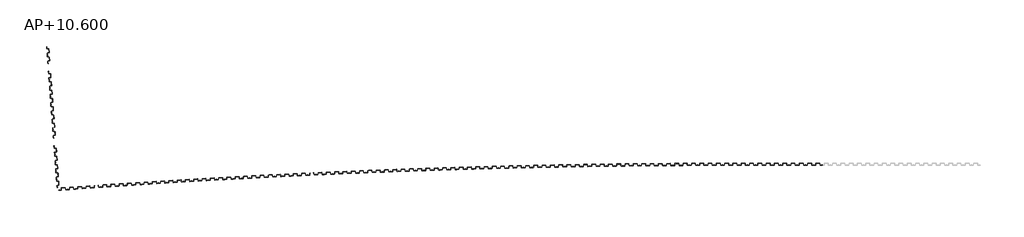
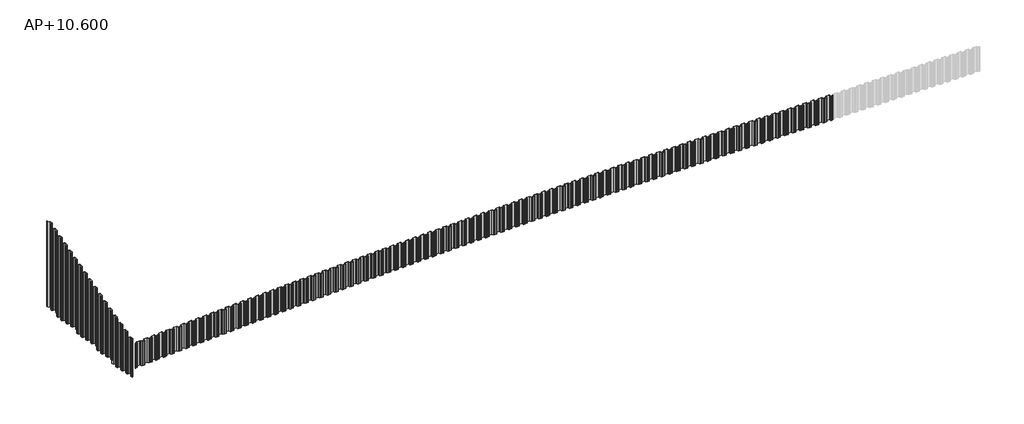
# One storey, part 1 of 2: 109 proxies.
"""IFC4 building model written with IfcOpenShell, lengths in millimetres."""

from ifc_helpers import new_model, si_unit, origin, place, context, project, spatial, transform, mapped, element, save
from components import generic_models_baafeade, generic_models_cdec1266, generic_models_6a52f8d3, generic_models_769bab11, generic_models_eddb28b0, generic_models_b851e550, generic_models_f981eec5, generic_models_fa2cd2e8, generic_models_5c6d3e61, generic_models_5d25678b, generic_models_d380ba2e, generic_models_831c492c, generic_models_77be9fe8, generic_models_16d24312

model = new_model("IFC4")

# Units and contexts
model_context = context("Model", 3, world=origin())
ifc_project = project(units=[si_unit("LENGTHUNIT", "METRE", prefix="MILLI")], contexts=[model_context])

# Site, building, storey
site = spatial("IfcSite", under=ifc_project)
building = spatial("IfcBuilding", under=site)
storey = spatial("IfcBuildingStorey", under=building, Name="AP+10.600", Elevation=10600.0)

# Proxies
placement = place(None, origin())
generic_models_shape = generic_models_baafeade(model_context)
element("IfcBuildingElementProxy", 1, Name="鋼矢板10H型 : 鋼矢板10H型", ObjectType="鋼矢板10H型 : 鋼矢板10H型", at=placement, inside=storey, context=model_context, shape_type="MappedRepresentation", body=[
    mapped(generic_models_shape, transform((-6168.0, -15450.0, 9950.0), x_axis=(1.0, 0.0, 0.0), y_axis=(0.0, 1.0, 0.0), z_axis=(0.0, 0.0, 1.0))),
])
element("IfcBuildingElementProxy", 2, Name="鋼矢板10H型 : 鋼矢板10H型", ObjectType="鋼矢板10H型 : 鋼矢板10H型", at=placement, inside=storey, context=model_context, shape_type="MappedRepresentation", body=[
    mapped(generic_models_shape, transform((-7068.0, -15450.0, 9950.0), x_axis=(1.0, 0.0, 0.0), y_axis=(0.0, 1.0, 0.0), z_axis=(0.0, 0.0, 1.0))),
])
element("IfcBuildingElementProxy", 3, Name="鋼矢板10H型 : 鋼矢板10H型", ObjectType="鋼矢板10H型 : 鋼矢板10H型", at=placement, inside=storey, context=model_context, shape_type="MappedRepresentation", body=[
    mapped(generic_models_shape, transform((-7968.0, -15450.0, 9950.0), x_axis=(1.0, 0.0, 0.0), y_axis=(0.0, 1.0, 0.0), z_axis=(0.0, 0.0, 1.0))),
])
element("IfcBuildingElementProxy", 4, Name="鋼矢板10H型 : 鋼矢板10H型", ObjectType="鋼矢板10H型 : 鋼矢板10H型", at=placement, inside=storey, context=model_context, shape_type="MappedRepresentation", body=[
    mapped(generic_models_shape, transform((-8868.0, -15450.0, 9950.0), x_axis=(1.0, 0.0, 0.0), y_axis=(0.0, 1.0, 0.0), z_axis=(0.0, 0.0, 1.0))),
])
element("IfcBuildingElementProxy", 5, Name="鋼矢板10H型 : 鋼矢板10H型", ObjectType="鋼矢板10H型 : 鋼矢板10H型", at=placement, inside=storey, context=model_context, shape_type="MappedRepresentation", body=[
    mapped(generic_models_shape, transform((-9768.0, -15450.0, 9950.0), x_axis=(1.0, 0.0, 0.0), y_axis=(0.0, 1.0, 0.0), z_axis=(0.0, 0.0, 1.0))),
])
element("IfcBuildingElementProxy", 6, Name="鋼矢板10H型 : 鋼矢板10H型", ObjectType="鋼矢板10H型 : 鋼矢板10H型", at=placement, inside=storey, context=model_context, shape_type="MappedRepresentation", body=[
    mapped(generic_models_shape, transform((-10668.0, -15450.0, 9950.0), x_axis=(1.0, 0.0, 0.0), y_axis=(0.0, 1.0, 0.0), z_axis=(0.0, 0.0, 1.0))),
])
element("IfcBuildingElementProxy", 7, Name="鋼矢板10H型 : 鋼矢板10H型", ObjectType="鋼矢板10H型 : 鋼矢板10H型", at=placement, inside=storey, context=model_context, shape_type="MappedRepresentation", body=[
    mapped(generic_models_shape, transform((-11568.0, -15450.0, 9950.0), x_axis=(1.0, 0.0, 0.0), y_axis=(0.0, 1.0, 0.0), z_axis=(0.0, 0.0, 1.0))),
])
element("IfcBuildingElementProxy", 8, Name="鋼矢板10H型 : 鋼矢板10H型", ObjectType="鋼矢板10H型 : 鋼矢板10H型", at=placement, inside=storey, context=model_context, shape_type="MappedRepresentation", body=[
    mapped(generic_models_shape, transform((-12468.0, -15450.0, 9950.0), x_axis=(1.0, 0.0, 0.0), y_axis=(0.0, 1.0, 0.0), z_axis=(0.0, 0.0, 1.0))),
])
element("IfcBuildingElementProxy", 9, Name="鋼矢板10H型 : 鋼矢板10H型", ObjectType="鋼矢板10H型 : 鋼矢板10H型", at=placement, inside=storey, context=model_context, shape_type="MappedRepresentation", body=[
    mapped(generic_models_shape, transform((-13368.0, -15450.0, 9950.0), x_axis=(1.0, 0.0, 0.0), y_axis=(0.0, 1.0, 0.0), z_axis=(0.0, 0.0, 1.0))),
])
element("IfcBuildingElementProxy", 10, Name="鋼矢板10H型 : 鋼矢板10H型", ObjectType="鋼矢板10H型 : 鋼矢板10H型", at=placement, inside=storey, context=model_context, shape_type="MappedRepresentation", body=[
    mapped(generic_models_shape, transform((-14268.0, -15450.0, 9950.0), x_axis=(1.0, 0.0, 0.0), y_axis=(0.0, 1.0, 0.0), z_axis=(0.0, 0.0, 1.0))),
])
element("IfcBuildingElementProxy", 11, Name="鋼矢板10H型 : 鋼矢板10H型", ObjectType="鋼矢板10H型 : 鋼矢板10H型", at=placement, inside=storey, context=model_context, shape_type="MappedRepresentation", body=[
    mapped(generic_models_shape, transform((-15168.0, -15450.0, 9950.0), x_axis=(1.0, 0.0, 0.0), y_axis=(0.0, 1.0, 0.0), z_axis=(0.0, 0.0, 1.0))),
])
element("IfcBuildingElementProxy", 12, Name="鋼矢板10H型 : 鋼矢板10H型", ObjectType="鋼矢板10H型 : 鋼矢板10H型", at=placement, inside=storey, context=model_context, shape_type="MappedRepresentation", body=[
    mapped(generic_models_shape, transform((-16068.0, -15450.0, 9950.0), x_axis=(1.0, 0.0, 0.0), y_axis=(0.0, 1.0, 0.0), z_axis=(0.0, 0.0, 1.0))),
])
element("IfcBuildingElementProxy", 13, Name="鋼矢板10H型 : 鋼矢板10H型", ObjectType="鋼矢板10H型 : 鋼矢板10H型", at=placement, inside=storey, context=model_context, shape_type="MappedRepresentation", body=[
    mapped(generic_models_shape, transform((-16962.9987153, -15450.4113564, 9950.0), x_axis=(1.0, 0.0, 0.0), y_axis=(0.0, 1.0, 0.0), z_axis=(0.0, 0.0, 1.0))),
])
element("IfcBuildingElementProxy", 14, Name="鋼矢板10H型 : 鋼矢板10H型", ObjectType="鋼矢板10H型 : 鋼矢板10H型", at=placement, inside=storey, context=model_context, shape_type="MappedRepresentation", body=[
    mapped(generic_models_shape, transform((-17862.996547, -15452.673809, 9950.0), x_axis=(0.999997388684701, 0.0022853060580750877, 0.0), y_axis=(-0.0022853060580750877, 0.999997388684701, 0.0), z_axis=(0.0, 0.0, 1.0))),
])
element("IfcBuildingElementProxy", 15, Name="鋼矢板10H型 : 鋼矢板10H型", ObjectType="鋼矢板10H型 : 鋼矢板10H型", at=placement, inside=storey, context=model_context, shape_type="MappedRepresentation", body=[
    mapped(generic_models_shape, transform((-18762.9923513, -15455.1419359, 9950.0), x_axis=(0.9999948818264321, 0.0031994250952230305, 0.0), y_axis=(-0.0031994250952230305, 0.9999948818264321, 0.0), z_axis=(0.0, 0.0, 1.0))),
])
element("IfcBuildingElementProxy", 16, Name="鋼矢板10H型 : 鋼矢板10H型", ObjectType="鋼矢板10H型 : 鋼矢板10H型", at=placement, inside=storey, context=model_context, shape_type="MappedRepresentation", body=[
    mapped(generic_models_shape, transform((-19662.9856706, -15458.432769, 9950.0), x_axis=(0.9999915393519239, 0.004113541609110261, 0.0), y_axis=(-0.004113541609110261, 0.9999915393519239, 0.0), z_axis=(0.0, 0.0, 1.0))),
])
element("IfcBuildingElementProxy", 17, Name="鋼矢板10H型 : 鋼矢板10H型", ObjectType="鋼矢板10H型 : 鋼矢板10H型", at=placement, inside=storey, context=model_context, shape_type="MappedRepresentation", body=[
    mapped(generic_models_shape, transform((-20562.9754584, -15462.5463038, 9950.0), x_axis=(0.9999873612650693, 0.005027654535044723, 0.0), y_axis=(-0.005027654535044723, 0.9999873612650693, 0.0), z_axis=(0.0, 0.0, 1.0))),
])
element("IfcBuildingElementProxy", 18, Name="鋼矢板10H型 : 鋼矢板10H型", ObjectType="鋼矢板10H型 : 鋼矢板10H型", at=placement, inside=storey, context=model_context, shape_type="MappedRepresentation", body=[
    mapped(generic_models_shape, transform((-21462.9612573, -15467.4825389, 9950.0), x_axis=(0.9999823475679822, 0.005941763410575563, 0.0), y_axis=(-0.005941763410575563, 0.9999823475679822, 0.0), z_axis=(0.0, 0.0, 1.0))),
])
element("IfcBuildingElementProxy", 19, Name="鋼矢板10H型 : 鋼矢板10H型", ObjectType="鋼矢板10H型 : 鋼矢板10H型", at=placement, inside=storey, context=model_context, shape_type="MappedRepresentation", body=[
    mapped(generic_models_shape, transform((-22362.9420204, -15473.2414679, 9950.0), x_axis=(0.9999764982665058, 0.006855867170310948, 0.0), y_axis=(-0.006855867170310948, 0.9999764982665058, 0.0), z_axis=(0.0, 0.0, 1.0))),
])
element("IfcBuildingElementProxy", 20, Name="鋼矢板10H型 : 鋼矢板10H型", ObjectType="鋼矢板10H型 : 鋼矢板10H型", at=placement, inside=storey, context=model_context, shape_type="MappedRepresentation", body=[
    mapped(generic_models_shape, transform((-23262.9172905, -15479.8230885, 9950.0), x_axis=(0.9999698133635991, 0.007769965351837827, 0.0), y_axis=(-0.007769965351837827, 0.9999698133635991, 0.0), z_axis=(0.0, 0.0, 1.0))),
])
element("IfcBuildingElementProxy", 21, Name="鋼矢板10H型 : 鋼矢板10H型", ObjectType="鋼矢板10H型 : 鋼矢板10H型", at=placement, inside=storey, context=model_context, shape_type="MappedRepresentation", body=[
    mapped(generic_models_shape, transform((-24162.8860208, -15487.2273925, 9950.0), x_axis=(0.9999622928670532, 0.008684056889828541, 0.0), y_axis=(-0.008684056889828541, 0.9999622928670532, 0.0), z_axis=(0.0, 0.0, 1.0))),
])
element("IfcBuildingElementProxy", 22, Name="鋼矢板10H型 : 鋼矢板10H型", ObjectType="鋼矢板10H型 : 鋼矢板10H型", at=placement, inside=storey, context=model_context, shape_type="MappedRepresentation", body=[
    mapped(generic_models_shape, transform((-25062.8477541, -15495.4543766, 9950.0), x_axis=(0.99995393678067, 0.009598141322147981, 0.0), y_axis=(-0.009598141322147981, 0.99995393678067, 0.0), z_axis=(0.0, 0.0, 1.0))),
])
element("IfcBuildingElementProxy", 23, Name="鋼矢板10H型 : 鋼矢板10H型", ObjectType="鋼矢板10H型 : 鋼矢板10H型", at=placement, inside=storey, context=model_context, shape_type="MappedRepresentation", body=[
    mapped(generic_models_shape, transform((-25962.8014435, -15504.5040308, 9950.0), x_axis=(0.9999447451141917, 0.010512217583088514, 0.0), y_axis=(-0.010512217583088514, 0.9999447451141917, 0.0), z_axis=(0.0, 0.0, 1.0))),
])
element("IfcBuildingElementProxy", 24, Name="鋼矢板10H型 : 鋼矢板10H型", ObjectType="鋼矢板10H型 : 鋼矢板10H型", at=placement, inside=storey, context=model_context, shape_type="MappedRepresentation", body=[
    mapped(generic_models_shape, transform((-26862.7466317, -15514.3763509, 9950.0), x_axis=(0.999934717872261, 0.011426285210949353, 0.0), y_axis=(-0.011426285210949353, 0.999934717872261, 0.0), z_axis=(0.0, 0.0, 1.0))),
])
element("IfcBuildingElementProxy", 25, Name="鋼矢板10H型 : 鋼矢板10H型", ObjectType="鋼矢板10H型 : 鋼矢板10H型", at=placement, inside=storey, context=model_context, shape_type="MappedRepresentation", body=[
    mapped(generic_models_shape, transform((-27762.6822721, -15525.071325, 9950.0), x_axis=(0.9999238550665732, 0.012340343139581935, 0.0), y_axis=(-0.012340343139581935, 0.9999238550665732, 0.0), z_axis=(0.0, 0.0, 1.0))),
])
element("IfcBuildingElementProxy", 26, Name="鋼矢板10H型 : 鋼矢板10H型", ObjectType="鋼矢板10H型 : 鋼矢板10H型", at=placement, inside=storey, context=model_context, shape_type="MappedRepresentation", body=[
    mapped(generic_models_shape, transform((-28662.6079072, -15536.5889482, 9950.0), x_axis=(0.9999121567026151, 0.01325439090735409, 0.0), y_axis=(-0.01325439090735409, 0.9999121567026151, 0.0), z_axis=(0.0, 0.0, 1.0))),
])
element("IfcBuildingElementProxy", 27, Name="鋼矢板10H型 : 鋼矢板10H型", ObjectType="鋼矢板10H型 : 鋼矢板10H型", at=placement, inside=storey, context=model_context, shape_type="MappedRepresentation", body=[
    mapped(generic_models_shape, transform((-29562.5224906, -15548.9292064, 9950.0), x_axis=(0.9998996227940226, 0.014168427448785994, 0.0), y_axis=(-0.014168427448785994, 0.9998996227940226, 0.0), z_axis=(0.0, 0.0, 1.0))),
])
element("IfcBuildingElementProxy", 28, Name="鋼矢板10H型 : 鋼矢板10H型", ObjectType="鋼矢板10H型 : 鋼矢板10H型", at=placement, inside=storey, context=model_context, shape_type="MappedRepresentation", body=[
    mapped(generic_models_shape, transform((-30462.4255648, -15562.0920942, 9950.0), x_axis=(0.9998862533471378, 0.015082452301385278, 0.0), y_axis=(-0.015082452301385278, 0.9998862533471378, 0.0), z_axis=(0.0, 0.0, 1.0))),
])
element("IfcBuildingElementProxy", 29, Name="鋼矢板10H型 : 鋼矢板10H型", ObjectType="鋼矢板10H型 : 鋼矢板10H型", at=placement, inside=storey, context=model_context, shape_type="MappedRepresentation", body=[
    mapped(generic_models_shape, transform((-31362.3160831, -15576.0775954, 9950.0), x_axis=(0.999872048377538, 0.015996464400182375, 0.0), y_axis=(-0.015996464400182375, 0.999872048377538, 0.0), z_axis=(0.0, 0.0, 1.0))),
])
element("IfcBuildingElementProxy", 30, Name="鋼矢板10H型 : 鋼矢板10H型", ObjectType="鋼矢板10H型 : 鋼矢板10H型", at=placement, inside=storey, context=model_context, shape_type="MappedRepresentation", body=[
    mapped(generic_models_shape, transform((-32262.1935884, -15590.8857036, 9950.0), x_axis=(0.9998570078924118, 0.016910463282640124, 0.0), y_axis=(-0.016910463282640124, 0.9998570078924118, 0.0), z_axis=(0.0, 0.0, 1.0))),
])
element("IfcBuildingElementProxy", 31, Name="鋼矢板10H型 : 鋼矢板10H型", ObjectType="鋼矢板10H型 : 鋼矢板10H型", at=placement, inside=storey, context=model_context, shape_type="MappedRepresentation", body=[
    mapped(generic_models_shape, transform((-33162.0570339, -15606.516401, 9950.0), x_axis=(0.9998411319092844, 0.017824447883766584, 0.0), y_axis=(-0.017824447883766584, 0.9998411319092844, 0.0), z_axis=(0.0, 0.0, 1.0))),
])
element("IfcBuildingElementProxy", 32, Name="鋼矢板10H型 : 鋼矢板10H型", ObjectType="鋼矢板10H型 : 鋼矢板10H型", at=placement, inside=storey, context=model_context, shape_type="MappedRepresentation", body=[
    mapped(generic_models_shape, transform((-34061.9059624, -15622.9696803, 9950.0), x_axis=(0.9998244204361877, 0.018738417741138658, 0.0), y_axis=(-0.018738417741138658, 0.9998244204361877, 0.0), z_axis=(0.0, 0.0, 1.0))),
])
element("IfcBuildingElementProxy", 33, Name="鋼矢板10H型 : 鋼矢板10H型", ObjectType="鋼矢板10H型 : 鋼矢板10H型", at=placement, inside=storey, context=model_context, shape_type="MappedRepresentation", body=[
    mapped(generic_models_shape, transform((-34961.7393273, -15640.2455216, 9950.0), x_axis=(0.9998068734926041, 0.019652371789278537, 0.0), y_axis=(-0.019652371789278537, 0.9998068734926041, 0.0), z_axis=(0.0, 0.0, 1.0))),
])
element("IfcBuildingElementProxy", 34, Name="鋼矢板10H型 : 鋼矢板10H型", ObjectType="鋼矢板10H型 : 鋼矢板10H型", at=placement, inside=storey, context=model_context, shape_type="MappedRepresentation", body=[
    mapped(generic_models_shape, transform((-35861.5566713, -15658.3439169, 9950.0), x_axis=(0.9997884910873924, 0.02056630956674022, 0.0), y_axis=(-0.02056630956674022, 0.9997884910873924, 0.0), z_axis=(0.0, 0.0, 1.0))),
])
element("IfcBuildingElementProxy", 35, Name="鋼矢板10H型 : 鋼矢板10H型", ObjectType="鋼矢板10H型 : 鋼矢板10H型", at=placement, inside=storey, context=model_context, shape_type="MappedRepresentation", body=[
    mapped(generic_models_shape, transform((-36761.356948, -15677.2648445, 9950.0), x_axis=(0.999769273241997, 0.02148023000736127, 0.0), y_axis=(-0.02148023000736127, 0.999769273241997, 0.0), z_axis=(0.0, 0.0, 1.0))),
])
element("IfcBuildingElementProxy", 36, Name="鋼矢板10H型 : 鋼矢板10H型", ObjectType="鋼矢板10H型 : 鋼矢板10H型", at=placement, inside=storey, context=model_context, shape_type="MappedRepresentation", body=[
    mapped(generic_models_shape, transform((-37661.1396999, -15697.0082953, 9950.0), x_axis=(0.9997492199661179, 0.022394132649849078, 0.0), y_axis=(-0.022394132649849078, 0.9997492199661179, 0.0), z_axis=(0.0, 0.0, 1.0))),
])
element("IfcBuildingElementProxy", 37, Name="鋼矢板10H型 : 鋼矢板10H型", ObjectType="鋼矢板10H型 : 鋼矢板10H型", at=placement, inside=storey, context=model_context, shape_type="MappedRepresentation", body=[
    mapped(generic_models_shape, transform((-38560.9038806, -15717.5742459, 9950.0), x_axis=(0.9997283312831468, 0.023308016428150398, 0.0), y_axis=(-0.023308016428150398, 0.9997283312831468, 0.0), z_axis=(0.0, 0.0, 1.0))),
])
element("IfcBuildingElementProxy", 38, Name="鋼矢板10H型 : 鋼矢板10H型", ObjectType="鋼矢板10H型 : 鋼矢板10H型", at=placement, inside=storey, context=model_context, shape_type="MappedRepresentation", body=[
    mapped(generic_models_shape, transform((-39460.649033, -15738.9626863, 9950.0), x_axis=(0.9997066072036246, 0.02422188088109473, 0.0), y_axis=(-0.02422188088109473, 0.9997066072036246, 0.0), z_axis=(0.0, 0.0, 1.0))),
])
element("IfcBuildingElementProxy", 39, Name="鋼矢板10H型 : 鋼矢板10H型", ObjectType="鋼矢板10H型 : 鋼矢板10H型", at=placement, inside=storey, context=model_context, shape_type="MappedRepresentation", body=[
    mapped(generic_models_shape, transform((-40360.3741104, -15761.173591, 9950.0), x_axis=(0.9996840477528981, 0.025135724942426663, 0.0), y_axis=(-0.025135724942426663, 0.9996840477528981, 0.0), z_axis=(0.0, 0.0, 1.0))),
])
element("IfcBuildingElementProxy", 40, Name="鋼矢板10H型 : 鋼矢板10H型", ObjectType="鋼矢板10H型 : 鋼矢板10H型", at=placement, inside=storey, context=model_context, shape_type="MappedRepresentation", body=[
    mapped(generic_models_shape, transform((-41260.0786558, -15784.2069495, 9950.0), x_axis=(0.9996606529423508, 0.02604954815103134, 0.0), y_axis=(-0.02604954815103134, 0.9996606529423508, 0.0), z_axis=(0.0, 0.0, 1.0))),
])
element("IfcBuildingElementProxy", 41, Name="鋼矢板10H型 : 鋼矢板10H型", ObjectType="鋼矢板10H型 : 鋼矢板10H型", at=placement, inside=storey, context=model_context, shape_type="MappedRepresentation", body=[
    mapped(generic_models_shape, transform((-42159.7616226, -15808.0627342, 9950.0), x_axis=(0.9996364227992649, 0.026963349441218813, 0.0), y_axis=(-0.026963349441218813, 0.9996364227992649, 0.0), z_axis=(0.0, 0.0, 1.0))),
])
element("IfcBuildingElementProxy", 42, Name="鋼矢板10H型 : 鋼矢板10H型", ObjectType="鋼矢板10H型 : 鋼矢板10H型", at=placement, inside=storey, context=model_context, shape_type="MappedRepresentation", body=[
    mapped(generic_models_shape, transform((-43059.4225537, -15832.7409338, 9950.0), x_axis=(0.9996113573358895, 0.02787712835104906, 0.0), y_axis=(-0.02787712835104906, 0.9996113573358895, 0.0), z_axis=(0.0, 0.0, 1.0))),
])
element("IfcBuildingElementProxy", 43, Name="鋼矢板10H型 : 鋼矢板10H型", ObjectType="鋼矢板10H型 : 鋼矢板10H型", at=placement, inside=storey, context=model_context, shape_type="MappedRepresentation", body=[
    mapped(generic_models_shape, transform((-43959.0604028, -15858.2415187, 9950.0), x_axis=(0.9995854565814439, 0.02879088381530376, 0.0), y_axis=(-0.02879088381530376, 0.9995854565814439, 0.0), z_axis=(0.0, 0.0, 1.0))),
])
element("IfcBuildingElementProxy", 44, Name="鋼矢板10H型 : 鋼矢板10H型", ObjectType="鋼矢板10H型 : 鋼矢板10H型", at=placement, inside=storey, context=model_context, shape_type="MappedRepresentation", body=[
    mapped(generic_models_shape, transform((-44858.6747126, -15884.5644769, 9950.0), x_axis=(0.9995587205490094, 0.02970461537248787, 0.0), y_axis=(-0.02970461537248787, 0.9995587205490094, 0.0), z_axis=(0.0, 0.0, 1.0))),
])
element("IfcBuildingElementProxy", 45, Name="鋼矢板10H型 : 鋼矢板10H型", ObjectType="鋼矢板10H型 : 鋼矢板10H型", at=placement, inside=storey, context=model_context, shape_type="MappedRepresentation", body=[
    mapped(generic_models_shape, transform((-45758.2644369, -15911.7097769, 9950.0), x_axis=(0.999531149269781, 0.030618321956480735, 0.0), y_axis=(-0.030618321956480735, 0.999531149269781, 0.0), z_axis=(0.0, 0.0, 1.0))),
])
element("IfcBuildingElementProxy", 46, Name="鋼矢板10H型 : 鋼矢板10H型", ObjectType="鋼矢板10H型 : 鋼矢板10H型", at=placement, inside=storey, context=model_context, shape_type="MappedRepresentation", body=[
    mapped(generic_models_shape, transform((-46657.8291184, -15939.6774056, 9950.0), x_axis=(0.999502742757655, 0.0315320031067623, 0.0), y_axis=(-0.0315320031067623, 0.999502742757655, 0.0), z_axis=(0.0, 0.0, 1.0))),
])
element("IfcBuildingElementProxy", 47, Name="鋼矢板10H型 : 鋼矢板10H型", ObjectType="鋼矢板10H型 : 鋼矢板10H型", at=placement, inside=storey, context=model_context, shape_type="MappedRepresentation", body=[
    mapped(generic_models_shape, transform((-47557.367711, -15968.4673299, 9950.0), x_axis=(0.9994735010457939, 0.0324456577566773, 0.0), y_axis=(-0.0324456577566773, 0.9994735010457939, 0.0), z_axis=(0.0, 0.0, 1.0))),
])
element("IfcBuildingElementProxy", 48, Name="鋼矢板10H型 : 鋼矢板10H型", ObjectType="鋼矢板10H型 : 鋼矢板10H型", at=placement, inside=storey, context=model_context, shape_type="MappedRepresentation", body=[
    mapped(generic_models_shape, transform((-48456.8797575, -15998.0795357, 9950.0), x_axis=(0.9994434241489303, 0.033359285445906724, 0.0), y_axis=(-0.033359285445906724, 0.9994434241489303, 0.0), z_axis=(0.0, 0.0, 1.0))),
])
element("IfcBuildingElementProxy", 49, Name="鋼矢板10H型 : 鋼矢板10H型", ObjectType="鋼矢板10H型 : 鋼矢板10H型", at=placement, inside=storey, context=model_context, shape_type="MappedRepresentation", body=[
    mapped(generic_models_shape, transform((-49356.3642117, -16028.513988, 9950.0), x_axis=(0.9994125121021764, 0.03427288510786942, 0.0), y_axis=(-0.03427288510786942, 0.9994125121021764, 0.0), z_axis=(0.0, 0.0, 1.0))),
])
element("IfcBuildingElementProxy", 50, Name="鋼矢板10H型 : 鋼矢板10H型", ObjectType="鋼矢板10H型 : 鋼矢板10H型", at=placement, inside=storey, context=model_context, shape_type="MappedRepresentation", body=[
    mapped(generic_models_shape, transform((-50255.8206165, -16059.770672, 9950.0), x_axis=(0.9993807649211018, 0.03518645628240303, 0.0), y_axis=(-0.03518645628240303, 0.9993807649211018, 0.0), z_axis=(0.0, 0.0, 1.0))),
])
element("IfcBuildingElementProxy", 51, Name="鋼矢板10H型 : 鋼矢板10H型", ObjectType="鋼矢板10H型 : 鋼矢板10H型", at=placement, inside=storey, context=model_context, shape_type="MappedRepresentation", body=[
    mapped(generic_models_shape, transform((-51155.2479259, -16091.8495507, 9950.0), x_axis=(0.9993481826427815, 0.036099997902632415, 0.0), y_axis=(-0.036099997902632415, 0.9993481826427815, 0.0), z_axis=(0.0, 0.0, 1.0))),
])
element("IfcBuildingElementProxy", 52, Name="鋼矢板10H型 : 鋼矢板10H型", ObjectType="鋼矢板10H型 : 鋼矢板10H型", at=placement, inside=storey, context=model_context, shape_type="MappedRepresentation", body=[
    mapped(generic_models_shape, transform((-52054.6456827, -16124.7506083, 9950.0), x_axis=(0.9993147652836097, 0.037013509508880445, 0.0), y_axis=(-0.037013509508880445, 0.9993147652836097, 0.0), z_axis=(0.0, 0.0, 1.0))),
])
element("IfcBuildingElementProxy", 53, Name="鋼矢板10H型 : 鋼矢板10H型", ObjectType="鋼矢板10H型 : 鋼矢板10H型", at=placement, inside=storey, context=model_context, shape_type="MappedRepresentation", body=[
    mapped(generic_models_shape, transform((-52954.0128409, -16158.4738061, 9950.0), x_axis=(0.9992805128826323, 0.03792699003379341, 0.0), y_axis=(-0.03792699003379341, 0.9992805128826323, 0.0), z_axis=(0.0, 0.0, 1.0))),
])
element("IfcBuildingElementProxy", 54, Name="鋼矢板10H型 : 鋼矢板10H型", ObjectType="鋼矢板10H型 : 鋼矢板10H型", at=placement, inside=storey, context=model_context, shape_type="MappedRepresentation", body=[
    mapped(generic_models_shape, transform((-53853.3489434, -16193.0191274, 9950.0), x_axis=(0.999245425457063, 0.03884043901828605, 0.0), y_axis=(-0.03884043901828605, 0.999245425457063, 0.0), z_axis=(0.0, 0.0, 1.0))),
])
element("IfcBuildingElementProxy", 55, Name="鋼矢板10H型 : 鋼矢板10H型", ObjectType="鋼矢板10H型 : 鋼矢板10H型", at=placement, inside=storey, context=model_context, shape_type="MappedRepresentation", body=[
    mapped(generic_models_shape, transform((-54752.6529443, -16228.3865315, 9950.0), x_axis=(0.9992095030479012, 0.039753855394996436, 0.0), y_axis=(-0.039753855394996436, 0.9992095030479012, 0.0), z_axis=(0.0, 0.0, 1.0))),
])
element("IfcBuildingElementProxy", 56, Name="鋼矢板10H型 : 鋼矢板10H型", ObjectType="鋼矢板10H型 : 鋼矢板10H型", at=placement, inside=storey, context=model_context, shape_type="MappedRepresentation", body=[
    mapped(generic_models_shape, transform((-55651.9243865, -16264.5760011, 9950.0), x_axis=(0.9991727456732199, 0.040667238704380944, 0.0), y_axis=(-0.040667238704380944, 0.9991727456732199, 0.0), z_axis=(0.0, 0.0, 1.0))),
])
element("IfcBuildingElementProxy", 57, Name="鋼矢板10H型 : 鋼矢板10H型", ObjectType="鋼矢板10H型 : 鋼矢板10H型", at=placement, inside=storey, context=model_context, shape_type="MappedRepresentation", body=[
    mapped(generic_models_shape, transform((-56551.1622242, -16301.5874934, 9950.0), x_axis=(0.9991351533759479, 0.04158058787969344, 0.0), y_axis=(-0.04158058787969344, 0.9991351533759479, 0.0), z_axis=(0.0, 0.0, 1.0))),
])
element("IfcBuildingElementProxy", 58, Name="鋼矢板10H型 : 鋼矢板10H型", ObjectType="鋼矢板10H型 : 鋼矢板10H型", at=placement, inside=storey, context=model_context, shape_type="MappedRepresentation", body=[
    mapped(generic_models_shape, transform((-57450.3660004, -16339.4209903, 9950.0), x_axis=(0.999096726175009, 0.04249390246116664, 0.0), y_axis=(-0.04249390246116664, 0.999096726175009, 0.0), z_axis=(0.0, 0.0, 1.0))),
])
element("IfcBuildingElementProxy", 59, Name="鋼矢板10H型 : 鋼矢板10H型", ObjectType="鋼矢板10H型 : 鋼矢板10H型", at=placement, inside=storey, context=model_context, shape_type="MappedRepresentation", body=[
    mapped(generic_models_shape, transform((-58349.5346692, -16378.076447, 9950.0), x_axis=(0.9990574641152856, 0.043407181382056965, 0.0), y_axis=(-0.043407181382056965, 0.9990574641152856, 0.0), z_axis=(0.0, 0.0, 1.0))),
])
element("IfcBuildingElementProxy", 60, Name="鋼矢板10H型 : 鋼矢板10H型", ObjectType="鋼矢板10H型 : 鋼矢板10H型", at=placement, inside=storey, context=model_context, shape_type="MappedRepresentation", body=[
    mapped(generic_models_shape, transform((-59248.6677737, -16417.5538447, 9950.0), x_axis=(0.9990173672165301, 0.04432042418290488, 0.0), y_axis=(-0.04432042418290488, 0.9990173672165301, 0.0), z_axis=(0.0, 0.0, 1.0))),
])
element("IfcBuildingElementProxy", 61, Name="鋼矢板10H型 : 鋼矢板10H型", ObjectType="鋼矢板10H型 : 鋼矢板10H型", at=placement, inside=storey, context=model_context, shape_type="MappedRepresentation", body=[
    mapped(generic_models_shape, transform((-60147.7642681, -16457.8531367, 9950.0), x_axis=(0.9989764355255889, 0.045233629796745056, 0.0), y_axis=(-0.045233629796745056, 0.9989764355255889, 0.0), z_axis=(0.0, 0.0, 1.0))),
])
element("IfcBuildingElementProxy", 62, Name="鋼矢板10H型 : 鋼矢板10H型", ObjectType="鋼矢板10H型 : 鋼矢板10H型", at=placement, inside=storey, context=model_context, shape_type="MappedRepresentation", body=[
    mapped(generic_models_shape, transform((-61046.8236956, -16498.9743032, 9950.0), x_axis=(0.9989346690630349, 0.046146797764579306, 0.0), y_axis=(-0.046146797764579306, 0.9989346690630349, 0.0), z_axis=(0.0, 0.0, 1.0))),
])
element("IfcBuildingElementProxy", 63, Name="鋼矢板10H型 : 鋼矢板10H型", ObjectType="鋼矢板10H型 : 鋼矢板10H型", at=placement, inside=storey, context=model_context, shape_type="MappedRepresentation", body=[
    mapped(generic_models_shape, transform((-61945.8450106, -16540.9172957, 9950.0), x_axis=(0.9988920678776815, 0.04705992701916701, 0.0), y_axis=(-0.04705992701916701, 0.9988920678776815, 0.0), z_axis=(0.0, 0.0, 1.0))),
])
element("IfcBuildingElementProxy", 64, Name="鋼矢板10H型 : 鋼矢板10H型", ObjectType="鋼矢板10H型 : 鋼矢板10H型", at=placement, inside=storey, context=model_context, shape_type="MappedRepresentation", body=[
    mapped(generic_models_shape, transform((-62844.827756, -16583.6820937, 9950.0), x_axis=(0.9988486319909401, 0.04797301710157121, 0.0), y_axis=(-0.04797301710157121, 0.9988486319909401, 0.0), z_axis=(0.0, 0.0, 1.0))),
])
element("IfcBuildingElementProxy", 65, Name="鋼矢板10H型 : 鋼矢板10H型", ObjectType="鋼矢板10H型 : 鋼矢板10H型", at=placement, inside=storey, context=model_context, shape_type="MappedRepresentation", body=[
    mapped(generic_models_shape, transform((-63743.7708864, -16627.2686466, 9950.0), x_axis=(0.9988043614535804, 0.0488860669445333, 0.0), y_axis=(-0.0488860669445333, 0.9988043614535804, 0.0), z_axis=(0.0, 0.0, 1.0))),
])
element("IfcBuildingElementProxy", 66, Name="鋼矢板10H型 : 鋼矢板10H型", ObjectType="鋼矢板10H型 : 鋼矢板10H型", at=placement, inside=storey, context=model_context, shape_type="MappedRepresentation", body=[
    mapped(generic_models_shape, transform((-64642.6739449, -16671.676933, 9950.0), x_axis=(0.9987592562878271, 0.0497990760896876, 0.0), y_axis=(-0.0497990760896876, 0.9987592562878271, 0.0), z_axis=(0.0, 0.0, 1.0))),
])
element("IfcBuildingElementProxy", 67, Name="鋼矢板10H型 : 鋼矢板10H型", ObjectType="鋼矢板10H型 : 鋼矢板10H型", at=placement, inside=storey, context=model_context, shape_type="MappedRepresentation", body=[
    mapped(generic_models_shape, transform((-65541.5358861, -16716.9069006, 9950.0), x_axis=(0.9987133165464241, 0.05071204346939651, 0.0), y_axis=(-0.05071204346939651, 0.9987133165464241, 0.0), z_axis=(0.0, 0.0, 1.0))),
])
element("IfcBuildingElementProxy", 68, Name="鋼矢板10H型 : 鋼矢板10H型", ObjectType="鋼矢板10H型 : 鋼矢板10H型", at=placement, inside=storey, context=model_context, shape_type="MappedRepresentation", body=[
    mapped(generic_models_shape, transform((-66440.3562531, -16762.958527, 9950.0), x_axis=(0.9986665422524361, 0.051624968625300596, 0.0), y_axis=(-0.051624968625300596, 0.9986665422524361, 0.0), z_axis=(0.0, 0.0, 1.0))),
])
element("IfcBuildingElementProxy", 69, Name="鋼矢板10H型 : 鋼矢板10H型", ObjectType="鋼矢板10H型 : 鋼矢板10H型", at=placement, inside=storey, context=model_context, shape_type="MappedRepresentation", body=[
    mapped(generic_models_shape, transform((-67339.1340007, -16809.8317581, 9950.0), x_axis=(0.9986189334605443, 0.05253785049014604, 0.0), y_axis=(-0.05253785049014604, 0.9986189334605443, 0.0), z_axis=(0.0, 0.0, 1.0))),
])
element("IfcBuildingElementProxy", 70, Name="鋼矢板10H型 : 鋼矢板10H型", ObjectType="鋼矢板10H型 : 鋼矢板10H型", at=placement, inside=storey, context=model_context, shape_type="MappedRepresentation", body=[
    mapped(generic_models_shape, transform((-68237.868672, -16857.5265706, 9950.0), x_axis=(0.998570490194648, 0.05345068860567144, 0.0), y_axis=(-0.05345068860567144, 0.998570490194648, 0.0), z_axis=(0.0, 0.0, 1.0))),
])
element("IfcBuildingElementProxy", 71, Name="鋼矢板10H型 : 鋼矢板10H型", ObjectType="鋼矢板10H型 : 鋼矢板10H型", at=placement, inside=storey, context=model_context, shape_type="MappedRepresentation", body=[
    mapped(generic_models_shape, transform((-69136.5592218, -16906.0429085, 9950.0), x_axis=(0.9985212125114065, 0.054363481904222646, 0.0), y_axis=(-0.054363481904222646, 0.9985212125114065, 0.0), z_axis=(0.0, 0.0, 1.0))),
])
element("IfcBuildingElementProxy", 72, Name="鋼矢板10H型 : 鋼矢板10H型", ObjectType="鋼矢板10H型 : 鋼矢板10H型", at=placement, inside=storey, context=model_context, shape_type="MappedRepresentation", body=[
    mapped(generic_models_shape, transform((-70035.2051933, -16955.3807477, 9950.0), x_axis=(0.998471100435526, 0.05527622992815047, 0.0), y_axis=(-0.05527622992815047, 0.998471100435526, 0.0), z_axis=(0.0, 0.0, 1.0))),
])
element("IfcBuildingElementProxy", 73, Name="鋼矢板10H型 : 鋼矢板10H型", ObjectType="鋼矢板10H型 : 鋼矢板10H型", at=placement, inside=storey, context=model_context, shape_type="MappedRepresentation", body=[
    mapped(generic_models_shape, transform((-70933.8055414, -17005.5400303, 9950.0), x_axis=(0.9984201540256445, 0.056188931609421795, 0.0), y_axis=(-0.056188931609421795, 0.9984201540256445, 0.0), z_axis=(0.0, 0.0, 1.0))),
])
element("IfcBuildingElementProxy", 74, Name="鋼矢板10H型 : 鋼矢板10H型", ObjectType="鋼矢板10H型 : 鋼矢板10H型", at=placement, inside=storey, context=model_context, shape_type="MappedRepresentation", body=[
    mapped(generic_models_shape, transform((-71832.3598095, -17056.5207313, 9950.0), x_axis=(0.9983683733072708, 0.057101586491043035, 0.0), y_axis=(-0.057101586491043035, 0.9983683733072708, 0.0), z_axis=(0.0, 0.0, 1.0))),
])
element("IfcBuildingElementProxy", 75, Name="鋼矢板10H型 : 鋼矢板10H型", ObjectType="鋼矢板10H型 : 鋼矢板10H型", at=placement, inside=storey, context=model_context, shape_type="MappedRepresentation", body=[
    mapped(generic_models_shape, transform((-72730.8669524, -17108.3227908, 9950.0), x_axis=(0.998315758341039, 0.058014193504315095, 0.0), y_axis=(-0.058014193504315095, 0.998315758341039, 0.0), z_axis=(0.0, 0.0, 1.0))),
])
element("IfcBuildingElementProxy", 76, Name="鋼矢板10H型 : 鋼矢板10H型", ObjectType="鋼矢板10H型 : 鋼矢板10H型", at=placement, inside=storey, context=model_context, shape_type="MappedRepresentation", body=[
    mapped(generic_models_shape, transform((-73629.3265136, -17160.9461832, 9950.0), x_axis=(0.9982623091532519, 0.058926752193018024, 0.0), y_axis=(-0.058926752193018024, 0.9982623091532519, 0.0), z_axis=(0.0, 0.0, 1.0))),
])
element("IfcBuildingElementProxy", 77, Name="鋼矢板10H型 : 鋼矢板10H型", ObjectType="鋼矢板10H型 : 鋼矢板10H型", at=placement, inside=storey, context=model_context, shape_type="MappedRepresentation", body=[
    mapped(generic_models_shape, transform((-74527.7374481, -17214.3908466, 9950.0), x_axis=(0.9982080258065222, 0.05983926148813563, 0.0), y_axis=(-0.05983926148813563, 0.9982080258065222, 0.0), z_axis=(0.0, 0.0, 1.0))),
])
element("IfcBuildingElementProxy", 78, Name="鋼矢板10H型 : 鋼矢板10H型", ObjectType="鋼矢板10H型 : 鋼矢板10H型", at=placement, inside=storey, context=model_context, shape_type="MappedRepresentation", body=[
    mapped(generic_models_shape, transform((-75426.0992994, -17268.6567545, 9950.0), x_axis=(0.9981529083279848, 0.060751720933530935, 0.0), y_axis=(-0.060751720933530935, 0.9981529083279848, 0.0), z_axis=(0.0, 0.0, 1.0))),
])
element("IfcBuildingElementProxy", 79, Name="鋼矢板10H型 : 鋼矢板10H型", ObjectType="鋼矢板10H型 : 鋼矢板10H型", at=placement, inside=storey, context=model_context, shape_type="MappedRepresentation", body=[
    mapped(generic_models_shape, transform((-76324.4110225, -17323.7438431, 9950.0), x_axis=(0.9980969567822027, 0.06166412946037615, 0.0), y_axis=(-0.06166412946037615, 0.9980969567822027, 0.0), z_axis=(0.0, 0.0, 1.0))),
])
element("IfcBuildingElementProxy", 80, Name="鋼矢板10H型 : 鋼矢板10H型", ObjectType="鋼矢板10H型 : 鋼矢板10H型", at=placement, inside=storey, context=model_context, shape_type="MappedRepresentation", body=[
    mapped(generic_models_shape, transform((-77222.6721611, -17379.652085, 9950.0), x_axis=(0.9980401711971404, 0.06257648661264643, 0.0), y_axis=(-0.06257648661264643, 0.9980401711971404, 0.0), z_axis=(0.0, 0.0, 1.0))),
])
element("IfcBuildingElementProxy", 81, Name="鋼矢板10H型 : 鋼矢板10H型", ObjectType="鋼矢板10H型 : 鋼矢板10H型", at=placement, inside=storey, context=model_context, shape_type="MappedRepresentation", body=[
    mapped(generic_models_shape, transform((-78120.8816703, -17436.3814147, 9950.0), x_axis=(0.9979825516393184, 0.06348879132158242, 0.0), y_axis=(-0.06348879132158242, 0.9979825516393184, 0.0), z_axis=(0.0, 0.0, 1.0))),
])
element("IfcBuildingElementProxy", 82, Name="鋼矢板10H型 : 鋼矢板10H型", ObjectType="鋼矢板10H型 : 鋼矢板10H型", at=placement, inside=storey, context=model_context, shape_type="MappedRepresentation", body=[
    mapped(generic_models_shape, transform((-79019.0390937, -17493.9318039, 9950.0), x_axis=(0.9979240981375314, 0.06440104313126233, 0.0), y_axis=(-0.06440104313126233, 0.9979240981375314, 0.0), z_axis=(0.0, 0.0, 1.0))),
])
element("IfcBuildingElementProxy", 83, Name="鋼矢板10H型 : 鋼矢板10H型", ObjectType="鋼矢板10H型 : 鋼矢板10H型", at=placement, inside=storey, context=model_context, shape_type="MappedRepresentation", body=[
    mapped(generic_models_shape, transform((-79917.1433867, -17552.3031851, 9950.0), x_axis=(0.9978648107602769, 0.06531324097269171, 0.0), y_axis=(-0.06531324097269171, 0.9978648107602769, 0.0), z_axis=(0.0, 0.0, 1.0))),
])
element("IfcBuildingElementProxy", 84, Name="鋼矢板10H型 : 鋼矢板10H型", ObjectType="鋼矢板10H型 : 鋼矢板10H型", at=placement, inside=storey, context=model_context, shape_type="MappedRepresentation", body=[
    mapped(generic_models_shape, transform((-80815.1940929, -17611.4955292, 9950.0), x_axis=(0.9978046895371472, 0.06622538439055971, 0.0), y_axis=(-0.06622538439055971, 0.9978046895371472, 0.0), z_axis=(0.0, 0.0, 1.0))),
])
element("IfcBuildingElementProxy", 85, Name="鋼矢板10H型 : 鋼矢板10H型", ObjectType="鋼矢板10H型 : 鋼矢板10H型", at=placement, inside=storey, context=model_context, shape_type="MappedRepresentation", body=[
    mapped(generic_models_shape, transform((-81713.1901679, -17671.5087667, 9950.0), x_axis=(0.9977437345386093, 0.06713747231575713, 0.0), y_axis=(-0.06713747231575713, 0.9977437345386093, 0.0), z_axis=(0.0, 0.0, 1.0))),
])
element("IfcBuildingElementProxy", 86, Name="鋼矢板10H型 : 鋼矢板10H型", ObjectType="鋼矢板10H型 : 鋼矢板10H型", at=placement, inside=storey, context=model_context, shape_type="MappedRepresentation", body=[
    mapped(generic_models_shape, transform((-82611.1311552, -17732.3428678, 9950.0), x_axis=(0.9976819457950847, 0.06804950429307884, 0.0), y_axis=(-0.06804950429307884, 0.9976819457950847, 0.0), z_axis=(0.0, 0.0, 1.0))),
])
element("IfcBuildingElementProxy", 87, Name="鋼矢板10H型 : 鋼矢板10H型", ObjectType="鋼矢板10H型 : 鋼矢板10H型", at=placement, inside=storey, context=model_context, shape_type="MappedRepresentation", body=[
    mapped(generic_models_shape, transform((-83509.0160105, -17793.9977611, 9950.0), x_axis=(0.9976193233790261, 0.068961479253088, 0.0), y_axis=(-0.068961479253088, 0.9976193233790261, 0.0), z_axis=(0.0, 0.0, 1.0))),
])
element("IfcBuildingElementProxy", 88, Name="鋼矢板10H型 : 鋼矢板10H型", ObjectType="鋼矢板10H型 : 鋼矢板10H型", at=placement, inside=storey, context=model_context, shape_type="MappedRepresentation", body=[
    mapped(generic_models_shape, transform((-84406.8442775, -17856.4734158, 9950.0), x_axis=(0.9975558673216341, 0.06987339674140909, 0.0), y_axis=(-0.06987339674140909, 0.9975558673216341, 0.0), z_axis=(0.0, 0.0, 1.0))),
])
element("IfcBuildingElementProxy", 89, Name="鋼矢板10H型 : 鋼矢板10H型", ObjectType="鋼矢板10H型 : 鋼矢板10H型", at=placement, inside=storey, context=model_context, shape_type="MappedRepresentation", body=[
    mapped(generic_models_shape, transform((-85304.6149121, -17919.7697588, 9950.0), x_axis=(0.997491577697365, 0.07078525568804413, 0.0), y_axis=(-0.07078525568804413, 0.997491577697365, 0.0), z_axis=(0.0, 0.0, 1.0))),
])
element("IfcBuildingElementProxy", 90, Name="鋼矢板10H型 : 鋼矢板10H型", ObjectType="鋼矢板10H型 : 鋼矢板10H型", at=placement, inside=storey, context=model_context, shape_type="MappedRepresentation", body=[
    mapped(generic_models_shape, transform((-86202.3274579, -17983.8867584, 9950.0), x_axis=(0.9974264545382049, 0.07169705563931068, 0.0), y_axis=(-0.07169705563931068, 0.9974264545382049, 0.0), z_axis=(0.0, 0.0, 1.0))),
])
element("IfcBuildingElementProxy", 91, Name="鋼矢板10H型 : 鋼矢板10H型", ObjectType="鋼矢板10H型 : 鋼矢板10H型", at=placement, inside=storey, context=model_context, shape_type="MappedRepresentation", body=[
    mapped(generic_models_shape, transform((-87099.9808709, -18048.8243395, 9950.0), x_axis=(0.9973604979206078, 0.07260879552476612, 0.0), y_axis=(-0.07260879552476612, 0.9973604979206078, 0.0), z_axis=(0.0, 0.0, 1.0))),
])
element("IfcBuildingElementProxy", 92, Name="鋼矢板10H型 : 鋼矢板10H型", ObjectType="鋼矢板10H型 : 鋼矢板10H型", at=placement, inside=storey, context=model_context, shape_type="MappedRepresentation", body=[
    mapped(generic_models_shape, transform((-87997.5746948, -18114.5824697, 9950.0), x_axis=(0.9972937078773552, 0.07352047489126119, 0.0), y_axis=(-0.07352047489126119, 0.9972937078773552, 0.0), z_axis=(0.0, 0.0, 1.0))),
])
generic_models_2_shape = generic_models_cdec1266(model_context)
element("IfcBuildingElementProxy", 93, Name="鋼矢板10H型 : 鋼矢板10H型", ObjectType="鋼矢板10H型 : 鋼矢板10H型", at=placement, inside=storey, context=model_context, shape_type="MappedRepresentation", body=[
    mapped(generic_models_2_shape, transform((-88590.7740044, -17501.5840955, 10247.2776843), x_axis=(0.07432581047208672, -0.9972340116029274, 0.0), y_axis=(0.9972340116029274, 0.07432581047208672, 0.0), z_axis=(0.0, 0.0, 1.0))),
])
generic_models_3_shape = generic_models_6a52f8d3(model_context)
element("IfcBuildingElementProxy", 94, Name="鋼矢板10H型 : 鋼矢板10H型", ObjectType="鋼矢板10H型 : 鋼矢板10H型", at=placement, inside=storey, context=model_context, shape_type="MappedRepresentation", body=[
    mapped(generic_models_3_shape, transform((-88657.6672338, -16604.0734851, 10615.1526843), x_axis=(0.07432581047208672, -0.9972340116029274, 0.0), y_axis=(0.9972340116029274, 0.07432581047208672, 0.0), z_axis=(0.0, 0.0, 1.0))),
])
generic_models_4_shape = generic_models_769bab11(model_context)
element("IfcBuildingElementProxy", 95, Name="鋼矢板10H型 : 鋼矢板10H型", ObjectType="鋼矢板10H型 : 鋼矢板10H型", at=placement, inside=storey, context=model_context, shape_type="MappedRepresentation", body=[
    mapped(generic_models_4_shape, transform((-88724.5604632, -15706.5628746, 10983.0526843), x_axis=(0.07432581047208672, -0.9972340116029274, 0.0), y_axis=(0.9972340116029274, 0.07432581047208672, 0.0), z_axis=(0.0, 0.0, 1.0))),
])
generic_models_5_shape = generic_models_eddb28b0(model_context)
element("IfcBuildingElementProxy", 96, Name="鋼矢板10H型 : 鋼矢板10H型", ObjectType="鋼矢板10H型 : 鋼矢板10H型", at=placement, inside=storey, context=model_context, shape_type="MappedRepresentation", body=[
    mapped(generic_models_5_shape, transform((-88858.3469221, -13911.5416537, 11718.8526843), x_axis=(0.07432581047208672, -0.9972340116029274, 0.0), y_axis=(0.9972340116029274, 0.07432581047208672, 0.0), z_axis=(0.0, 0.0, 1.0))),
])
element("IfcBuildingElementProxy", 97, Name="鋼矢板10H型 : 鋼矢板10H型", ObjectType="鋼矢板10H型 : 鋼矢板10H型", at=placement, inside=storey, context=model_context, shape_type="MappedRepresentation", body=[
    mapped(generic_models_5_shape, transform((-88791.4536926, -14809.0522642, 11350.9526843), x_axis=(0.07432581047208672, -0.9972340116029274, 0.0), y_axis=(0.9972340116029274, 0.07432581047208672, 0.0), z_axis=(0.0, 0.0, 1.0))),
])
generic_models_6_shape = generic_models_b851e550(model_context)
element("IfcBuildingElementProxy", 98, Name="鋼矢板10H型 : 鋼矢板10H型", ObjectType="鋼矢板10H型 : 鋼矢板10H型", at=placement, inside=storey, context=model_context, shape_type="MappedRepresentation", body=[
    mapped(generic_models_6_shape, transform((-88925.2401515, -13014.0310433, 12086.7526843), x_axis=(0.07432581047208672, -0.9972340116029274, 0.0), y_axis=(0.9972340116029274, 0.07432581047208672, 0.0), z_axis=(0.0, 0.0, 1.0))),
])
generic_models_7_shape = generic_models_f981eec5(model_context)
element("IfcBuildingElementProxy", 99, Name="鋼矢板10H型 : 鋼矢板10H型", ObjectType="鋼矢板10H型 : 鋼矢板10H型", at=placement, inside=storey, context=model_context, shape_type="MappedRepresentation", body=[
    mapped(generic_models_7_shape, transform((-89059.0266103, -11219.0098224, 12822.5526843), x_axis=(0.07432581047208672, -0.9972340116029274, 0.0), y_axis=(0.9972340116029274, 0.07432581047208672, 0.0), z_axis=(0.0, 0.0, 1.0))),
])
element("IfcBuildingElementProxy", 100, Name="鋼矢板10H型 : 鋼矢板10H型", ObjectType="鋼矢板10H型 : 鋼矢板10H型", at=placement, inside=storey, context=model_context, shape_type="MappedRepresentation", body=[
    mapped(generic_models_7_shape, transform((-88992.1333809, -12116.5204328, 12454.6526843), x_axis=(0.07432581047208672, -0.9972340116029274, 0.0), y_axis=(0.9972340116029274, 0.07432581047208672, 0.0), z_axis=(0.0, 0.0, 1.0))),
])
generic_models_8_shape = generic_models_fa2cd2e8(model_context)
element("IfcBuildingElementProxy", 101, Name="鋼矢板10H型 : 鋼矢板10H型", ObjectType="鋼矢板10H型 : 鋼矢板10H型", at=placement, inside=storey, context=model_context, shape_type="MappedRepresentation", body=[
    mapped(generic_models_8_shape, transform((-89125.9198398, -10321.499212, 13190.4526843), x_axis=(0.07432581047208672, -0.9972340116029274, 0.0), y_axis=(0.9972340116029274, 0.07432581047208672, 0.0), z_axis=(0.0, 0.0, 1.0))),
])
generic_models_9_shape = generic_models_5c6d3e61(model_context)
element("IfcBuildingElementProxy", 102, Name="鋼矢板10H型 : 鋼矢板10H型", ObjectType="鋼矢板10H型 : 鋼矢板10H型", at=placement, inside=storey, context=model_context, shape_type="MappedRepresentation", body=[
    mapped(generic_models_9_shape, transform((-89192.8130692, -9423.9886015, 13558.3526843), x_axis=(0.07432581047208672, -0.9972340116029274, 0.0), y_axis=(0.9972340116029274, 0.07432581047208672, 0.0), z_axis=(0.0, 0.0, 1.0))),
])
generic_models_10_shape = generic_models_5d25678b(model_context)
element("IfcBuildingElementProxy", 103, Name="鋼矢板10H型 : 鋼矢板10H型", ObjectType="鋼矢板10H型 : 鋼矢板10H型", at=placement, inside=storey, context=model_context, shape_type="MappedRepresentation", body=[
    mapped(generic_models_10_shape, transform((-89326.599528, -7628.9673806, 14294.1526843), x_axis=(0.07432581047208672, -0.9972340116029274, 0.0), y_axis=(0.9972340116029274, 0.07432581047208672, 0.0), z_axis=(0.0, 0.0, 1.0))),
])
element("IfcBuildingElementProxy", 104, Name="鋼矢板10H型 : 鋼矢板10H型", ObjectType="鋼矢板10H型 : 鋼矢板10H型", at=placement, inside=storey, context=model_context, shape_type="MappedRepresentation", body=[
    mapped(generic_models_10_shape, transform((-89259.7062986, -8526.4779911, 13926.2526843), x_axis=(0.07432581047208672, -0.9972340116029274, 0.0), y_axis=(0.9972340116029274, 0.07432581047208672, 0.0), z_axis=(0.0, 0.0, 1.0))),
])
generic_models_11_shape = generic_models_d380ba2e(model_context)
element("IfcBuildingElementProxy", 105, Name="鋼矢板10H型 : 鋼矢板10H型", ObjectType="鋼矢板10H型 : 鋼矢板10H型", at=placement, inside=storey, context=model_context, shape_type="MappedRepresentation", body=[
    mapped(generic_models_11_shape, transform((-89393.4927575, -6731.4567702, 14662.0526843), x_axis=(0.07432581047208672, -0.9972340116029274, 0.0), y_axis=(0.9972340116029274, 0.07432581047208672, 0.0), z_axis=(0.0, 0.0, 1.0))),
])
generic_models_12_shape = generic_models_831c492c(model_context)
element("IfcBuildingElementProxy", 106, Name="鋼矢板10H型 : 鋼矢板10H型", ObjectType="鋼矢板10H型 : 鋼矢板10H型", at=placement, inside=storey, context=model_context, shape_type="MappedRepresentation", body=[
    mapped(generic_models_12_shape, transform((-89460.3859869, -5833.9461597, 15029.9526843), x_axis=(0.07432581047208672, -0.9972340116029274, 0.0), y_axis=(0.9972340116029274, 0.07432581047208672, 0.0), z_axis=(0.0, 0.0, 1.0))),
])
generic_models_13_shape = generic_models_77be9fe8(model_context)
element("IfcBuildingElementProxy", 107, Name="鋼矢板10H型 : 鋼矢板10H型", ObjectType="鋼矢板10H型 : 鋼矢板10H型", at=placement, inside=storey, context=model_context, shape_type="MappedRepresentation", body=[
    mapped(generic_models_13_shape, transform((-89594.1724457, -4038.9249389, 15765.7526843), x_axis=(0.07432581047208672, -0.9972340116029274, 0.0), y_axis=(0.9972340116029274, 0.07432581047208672, 0.0), z_axis=(0.0, 0.0, 1.0))),
])
element("IfcBuildingElementProxy", 108, Name="鋼矢板10H型 : 鋼矢板10H型", ObjectType="鋼矢板10H型 : 鋼矢板10H型", at=placement, inside=storey, context=model_context, shape_type="MappedRepresentation", body=[
    mapped(generic_models_13_shape, transform((-89527.2792163, -4936.4355493, 15397.8526843), x_axis=(0.07432581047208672, -0.9972340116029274, 0.0), y_axis=(0.9972340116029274, 0.07432581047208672, 0.0), z_axis=(0.0, 0.0, 1.0))),
])
generic_models_14_shape = generic_models_16d24312(model_context)
element("IfcBuildingElementProxy", 109, Name="鋼矢板10H型 : 鋼矢板10H型", ObjectType="鋼矢板10H型 : 鋼矢板10H型", at=placement, inside=storey, context=model_context, shape_type="MappedRepresentation", body=[
    mapped(generic_models_14_shape, transform((-89661.0656752, -3141.4143284, 16131.2339343), x_axis=(0.07432581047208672, -0.9972340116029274, 0.0), y_axis=(0.9972340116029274, 0.07432581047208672, 0.0), z_axis=(0.0, 0.0, 1.0))),
])

save(model, "model.ifc")
